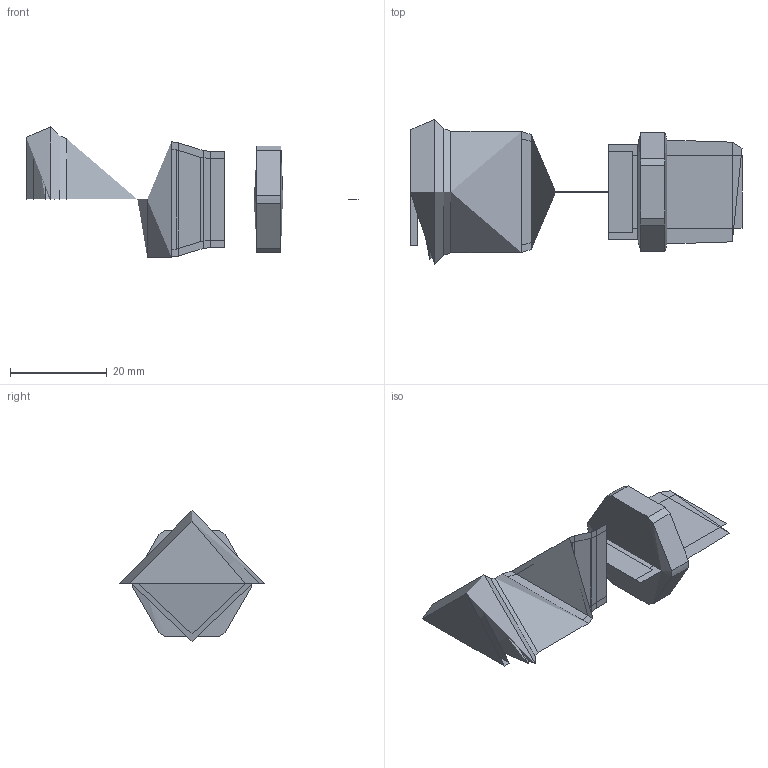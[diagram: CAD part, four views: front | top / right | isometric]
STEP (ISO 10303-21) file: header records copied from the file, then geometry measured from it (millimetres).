
FILE_DESCRIPTION(('FreeCAD Model'),'2;1');
FILE_NAME('Open CASCADE Shape Model','2025-10-20T15:01:19',('Author'),( ''),'Open CASCADE STEP processor 7.8','FreeCAD','Unknown');
FILE_SCHEMA(('AUTOMOTIVE_DESIGN { 1 0 10303 214 1 1 1 1 }'));
Length unit declared in the file: millimetre
Products named in the file (7): Unnamed152; COMPOUND; COMPOUND001; X-Achse; XY-Ebene; COMPOUND002; COMPOUND003
Assembly tree (18 placements, depth 3):
  Unnamed152
    COMPOUND
    COMPOUND001
      COMPOUND
    X-Achse  x6
    XY-Ebene  x6
    COMPOUND002
    COMPOUND003
      COMPOUND002
Bounding box: 68.5 x 29.94 x 26.87 mm (x, y, z)
Volume: 18824.9 mm3; surface area: 20570.3 mm2
Topology: 4 solids, 4 shells, 92 faces, 284 edges, 198 vertices
Faces by surface type: bspline 92
Entity records: 2263 total; most frequent: CARTESIAN_POINT 1322, ORIENTED_EDGE 278, EDGE_CURVE 139, VERTEX_POINT 99, FACE_BOUND 52, EDGE_LOOP 52, ADVANCED_FACE 46, DIRECTION 39
